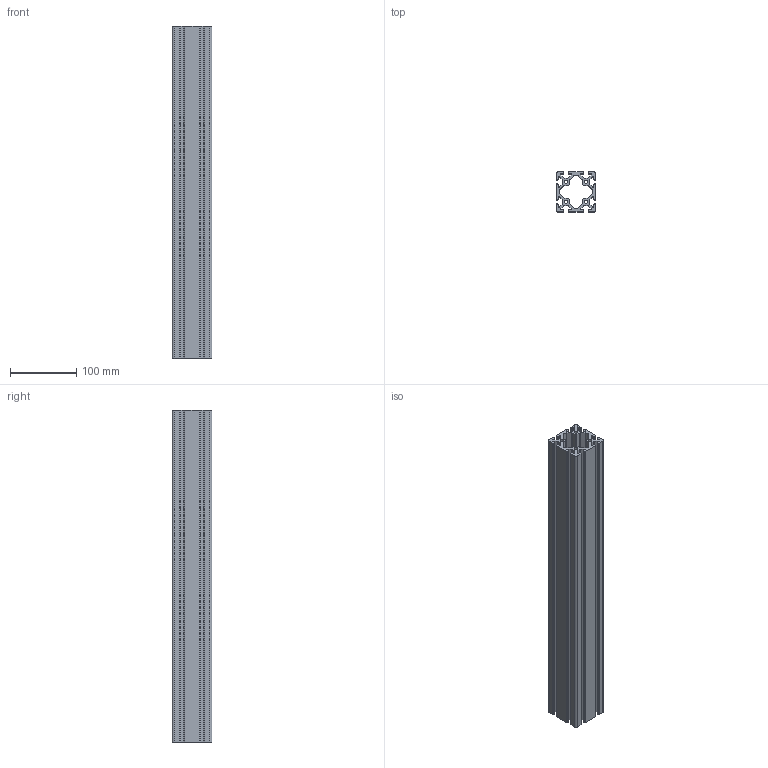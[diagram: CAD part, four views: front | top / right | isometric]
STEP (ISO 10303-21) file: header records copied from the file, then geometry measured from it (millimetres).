
FILE_DESCRIPTION (( 'STEP AP203' ), '1' );
FILE_NAME ('M ATP I6 6060.STEP', '2012-06-04T09:20:05', ( 'alle' ), ( 'Hewlett-Packard Company' ), 'SwSTEP 2.0', 'SolidWorks 2011', '' );
FILE_SCHEMA (( 'CONFIG_CONTROL_DESIGN' ));
Length unit declared in the file: millimetre
Products named in the file (1): M ATP I6 6060
Bounding box: 60 x 60 x 500 mm (x, y, z)
Volume: 656436 mm3; surface area: 353628.8 mm2
Topology: 1 solids, 1 shells, 191 faces, 567 edges, 378 vertices
Faces by surface type: cylinder 101, plane 90
Entity records: 6560 total; most frequent: DIRECTION 1153, CARTESIAN_POINT 1137, ORIENTED_EDGE 1134, EDGE_CURVE 567, AXIS2_PLACEMENT_3D 394, VERTEX_POINT 378, VECTOR 365, LINE 365
